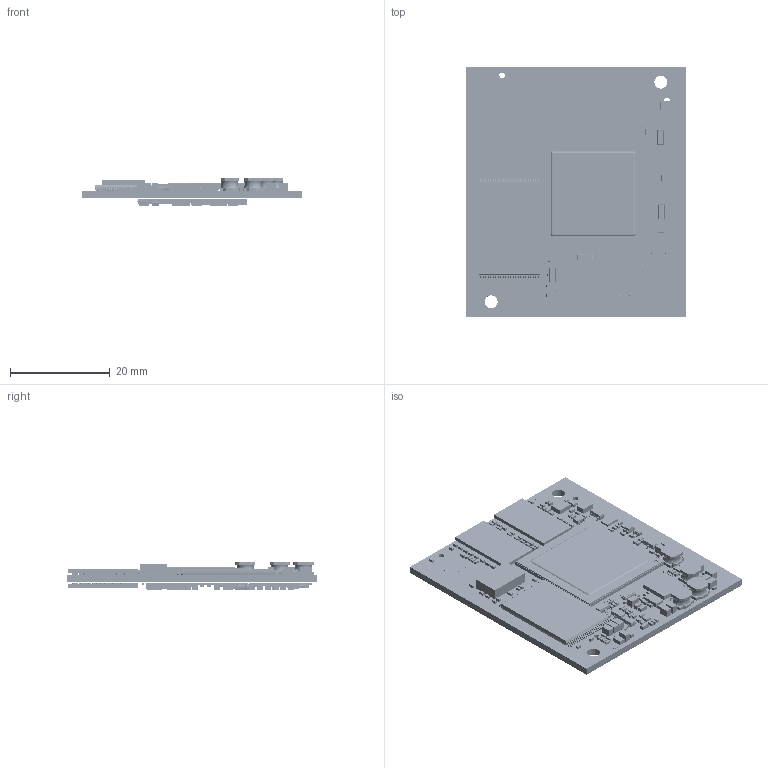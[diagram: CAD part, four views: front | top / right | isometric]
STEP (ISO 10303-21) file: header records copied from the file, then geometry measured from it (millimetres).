
FILE_DESCRIPTION(('STEP AP214'),'1');
FILE_NAME('Board1_BoardAndModels.step','2025-06-05T12:43:37',(' '),(' '),'Spatial InterOp 3D','XD3DPlugin XRACreate',' ');
FILE_SCHEMA(('automotive_design'));
Length unit declared in the file: millimetre
Products named in the file (190): Submodel-N:\GROUP\DEVELOP\HARDWARE\PCL-058 phyCORE-i.MX6 DSC\Design\1429.6b-DSC_ADIN1300-PHY\001\PCL-058\Board1_PCB\Layout\3D\Input_S\C0402C270F5GAC_0.xtd; C0402C270F5GAC_0; Submodel-CAP1363_part_simplified_0402-C3; DesignRootModel; Submodel-N:\GROUP\DEVELOP\HARDWARE\PCL-058 phyCORE-i.MX6 DSC\Design\1429.6b-DSC_ADIN1300-PHY\001\PCL-058\Board1_PCB\Layout\3D\Input_S\RCC-0402-1000F.xtd; RCC-0402-1000F; Submodel-RES802_part_simplified_0402-C3; Submodel-N:\GROUP\DEVELOP\HARDWARE\PCL-058 phyCORE-i.MX6 DSC\Design\1429.6b-DSC_ADIN1300-PHY\001\PCL-058\Board1_PCB\Layout\3D\Input_S\GMC21X7R474K25NT.xtd; GMC21X7R474K25NT; Submodel-CAP982_part_simplified_0805-height1_comma_5mm; Submodel-N:\GROUP\DEVELOP\HARDWARE\PCL-058 phyCORE-i.MX6 DSC\Design\1429.6b-DSC_ADIN1300-PHY\001\PCL-058\Board1_PCB\Layout\3D\Input_S\REMOVE_CONN2292.xtd; REMOVE_CONN2292; Submodel-CONN2292_part_simplified_Testpunkt-1mm; Submodel-RES5203_part_simplified_0402; Submodel-RES1982_part_simplified_0402-C3; Submodel-N:\GROUP\DEVELOP\HARDWARE\PCL-058 phyCORE-i.MX6 DSC\Design\1429.6b-DSC_ADIN1300-PHY\001\PCL-058\Board1_PCB\Layout\3D\Input_S\TSOP48_TYPE1_CPL_MRN.xtd; TSOP48_TYPE1_CPL_MRN; Submodel-FLASH73_part_simplified_TSOP48-50-C3; Submodel-N:\GROUP\DEVELOP\HARDWARE\PCL-058 phyCORE-i.MX6 DSC\Design\1429.6b-DSC_ADIN1300-PHY\001\PCL-058\Board1_PCB\Layout\3D\Input_S\JUMP32.xtd; JUMP32; Submodel-JUMP32_part_simplified_J1X3-0402-C3; Submodel-N:\GROUP\DEVELOP\HARDWARE\PCL-058 phyCORE-i.MX6 DSC\Design\1429.6b-DSC_ADIN1300-PHY\001\PCL-058\Board1_PCB\Layout\3D\Input_S\0402YC822JAZ4A.xtd; 0402YC822JAZ4A; Submodel-CAP722_part_simplified_0402-C3; Submodel-N:\GROUP\DEVELOP\HARDWARE\PCL-058 phyCORE-i.MX6 DSC\Design\1429.6b-DSC_ADIN1300-PHY\001\PCL-058\Board1_PCB\Layout\3D\Input_S\GMC10X7R104K100NT.xtd; GMC10X7R104K100NT; Submodel-CAP1102_part_simplified_0603-C3; Submodel-RES2212_part_simplified_0402-C3; Submodel-RES3023_part_simplified_0402-C3; Submodel-RES2882_part_simplified_0402-C3; Submodel-N:\GROUP\DEVELOP\HARDWARE\PCL-058 phyCORE-i.MX6 DSC\Design\1429.6b-DSC_ADIN1300-PHY\001\PCL-058\Board1_PCB\Layout\3D\Input_S\REMOVE_MECH603.xtd; REMOVE_MECH603; Submodel-MECH603_part_simplified_Fiducial-square_600_DSC; Submodel-RES2002_part_simplified_0402-C3; Submodel-N:\GROUP\DEVELOP\HARDWARE\PCL-058 phyCORE-i.MX6 DSC\Design\1429.6b-DSC_ADIN1300-PHY\001\PCL-058\Board1_PCB\Layout\3D\Input_S\EEPROM202.xtd; EEPROM202; Submodel-EEPROM202_part_simplified_DFN8-50-EP1_comma_2x1_comma_2; Submodel-RES3513_part_simplified_0402-C3; Submodel-CAP2703_part_simplified_0402; Submodel-N:\GROUP\DEVELOP\HARDWARE\PCL-058 phyCORE-i.MX6 DSC\Design\1429.6b-DSC_ADIN1300-PHY\001\PCL-058\Board1_PCB\Layout\3D\Input_S\REMOVE_MECH233.xtd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
Assembly tree (685 placements, depth 5):
  Board1_BoardAndModels
    DesignRootModel
      Submodel-CAP1363_part_simplified_0402-C3  x63
        Submodel-N:\GROUP\DEVELOP\HARDWARE\PCL-058 phyCORE-i.MX6 DSC\Design\1429.6b-DSC_ADIN1300-PHY\001\PCL-058\Board1_PCB\Layout\3D\Input_S\C0402C270F5GAC_0.xtd
          C0402C270F5GAC_0
      Submodel-RES802_part_simplified_0402-C3  x30
        Submodel-N:\GROUP\DEVELOP\HARDWARE\PCL-058 phyCORE-i.MX6 DSC\Design\1429.6b-DSC_ADIN1300-PHY\001\PCL-058\Board1_PCB\Layout\3D\Input_S\RCC-0402-1000F.xtd
          RCC-0402-1000F
      Submodel-CAP982_part_simplified_0805-height1_comma_5mm  x24
        Submodel-N:\GROUP\DEVELOP\HARDWARE\PCL-058 phyCORE-i.MX6 DSC\Design\1429.6b-DSC_ADIN1300-PHY\001\PCL-058\Board1_PCB\Layout\3D\Input_S\GMC21X7R474K25NT.xtd
          GMC21X7R474K25NT
      Submodel-CONN2292_part_simplified_Testpunkt-1mm  x11
        Submodel-N:\GROUP\DEVELOP\HARDWARE\PCL-058 phyCORE-i.MX6 DSC\Design\1429.6b-DSC_ADIN1300-PHY\001\PCL-058\Board1_PCB\Layout\3D\Input_S\REMOVE_CONN2292.xtd
          REMOVE_CONN2292
      Submodel-RES5203_part_simplified_0402
        Submodel-N:\GROUP\DEVELOP\HARDWARE\PCL-058 phyCORE-i.MX6 DSC\Design\1429.6b-DSC_ADIN1300-PHY\001\PCL-058\Board1_PCB\Layout\3D\Input_S\RCC-0402-1000F.xtd
          RCC-0402-1000F
      Submodel-RES1982_part_simplified_0402-C3  x71
        Submodel-N:\GROUP\DEVELOP\HARDWARE\PCL-058 phyCORE-i.MX6 DSC\Design\1429.6b-DSC_ADIN1300-PHY\001\PCL-058\Board1_PCB\Layout\3D\Input_S\RCC-0402-1000F.xtd
          RCC-0402-1000F
      Submodel-FLASH73_part_simplified_TSOP48-50-C3
        Submodel-N:\GROUP\DEVELOP\HARDWARE\PCL-058 phyCORE-i.MX6 DSC\Design\1429.6b-DSC_ADIN1300-PHY\001\PCL-058\Board1_PCB\Layout\3D\Input_S\TSOP48_TYPE1_CPL_MRN.xtd
          TSOP48_TYPE1_CPL_MRN
      Submodel-JUMP32_part_simplified_J1X3-0402-C3  x6
        Submodel-N:\GROUP\DEVELOP\HARDWARE\PCL-058 phyCORE-i.MX6 DSC\Design\1429.6b-DSC_ADIN1300-PHY\001\PCL-058\Board1_PCB\Layout\3D\Input_S\JUMP32.xtd
          JUMP32
      Submodel-CAP722_part_simplified_0402-C3  x164
        Submodel-N:\GROUP\DEVELOP\HARDWARE\PCL-058 phyCORE-i.MX6 DSC\Design\1429.6b-DSC_ADIN1300-PHY\001\PCL-058\Board1_PCB\Layout\3D\Input_S\0402YC822JAZ4A.xtd
          0402YC822JAZ4A
      Submodel-CAP1102_part_simplified_0603-C3  x18
        Submodel-N:\GROUP\DEVELOP\HARDWARE\PCL-058 phyCORE-i.MX6 DSC\Design\1429.6b-DSC_ADIN1300-PHY\001\PCL-058\Board1_PCB\Layout\3D\Input_S\GMC10X7R104K100NT.xtd
          GMC10X7R104K100NT
      Submodel-RES2212_part_simplified_0402-C3
        Submodel-N:\GROUP\DEVELOP\HARDWARE\PCL-058 phyCORE-i.MX6 DSC\Design\1429.6b-DSC_ADIN1300-PHY\001\PCL-058\Board1_PCB\Layout\3D\Input_S\RCC-0402-1000F.xtd
          RCC-0402-1000F
      Submodel-RES3023_part_simplified_0402-C3
        Submodel-N:\GROUP\DEVELOP\HARDWARE\PCL-058 phyCORE-i.MX6 DSC\Design\1429.6b-DSC_ADIN1300-PHY\001\PCL-058\Board1_PCB\Layout\3D\Input_S\RCC-0402-1000F.xtd
          RCC-0402-1000F
      Submodel-RES2882_part_simplified_0402-C3  x12
        Submodel-N:\GROUP\DEVELOP\HARDWARE\PCL-058 phyCORE-i.MX6 DSC\Design\1429.6b-DSC_ADIN1300-PHY\001\PCL-058\Board1_PCB\Layout\3D\Input_S\RCC-0402-1000F.xtd
          RCC-0402-1000F
      Submodel-MECH603_part_simplified_Fiducial-square_600_DSC  x2
        Submodel-N:\GROUP\DEVELOP\HARDWARE\PCL-058 phyCORE-i.MX6 DSC\Design\1429.6b-DSC_ADIN1300-PHY\001\PCL-058\Board1_PCB\Layout\3D\Input_S\REMOVE_MECH603.xtd
          REMOVE_MECH603
      Submodel-RES2002_part_simplified_0402-C3  x2
        Submodel-N:\GROUP\DEVELOP\HARDWARE\PCL-058 phyCORE-i.MX6 DSC\Design\1429.6b-DSC_ADIN1300-PHY\001\PCL-058\Board1_PCB\Layout\3D\Input_S\RCC-0402-1000F.xtd
          RCC-0402-1000F
      Submodel-EEPROM202_part_simplified_DFN8-50-EP1_comma_2x1_comma_2
        Submodel-N:\GROUP\DEVELOP\HARDWARE\PCL-058 phyCORE-i.MX6 DSC\Design\1429.6b-DSC_ADIN1300-PHY\001\PCL-058\Board1_PCB\Layout\3D\Input_S\EEPROM202.xtd
          EEPROM202
      Submodel-RES3513_part_simplified_0402-C3
        Submodel-N:\GROUP\DEVELOP\HARDWARE\PCL-058 phyCORE-i.MX6 DSC\Design\1429.6b-DSC_ADIN1300-PHY\001\PCL-058\Board1_PCB\Layout\3D\Input_S\RCC-0402-1000F.xtd
          RCC-0402-1000F
      Submodel-CAP2703_part_simplified_0402  x12
        Submodel-N:\GROUP\DEVELOP\HARDWARE\PCL-058 phyCORE-i.MX6 DSC\Design\1429.6b-DSC_ADIN1300-PHY\001\PCL-058\Board1_PCB\Layout\3D\Input_S\C0402C270F5GAC_0.xtd
          C0402C270F5GAC_0
      Submodel-MECH233_part_simplified_Fiducial-round  x2
        Submodel-N:\GROUP\DEVELOP\HARDWARE\PCL-058 phyCORE-i.MX6 DSC\Design\1429.6b-DSC_ADIN1300-PHY\001\PCL-058\Board1_PCB\Layout\3D\Input_S\REMOVE_MECH233.xtd
          REMOVE_MECH233
      Submodel-RES2912_part_simplified_0402-C3  x5
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Bounding box: 44 x 50 x 5.62 mm (x, y, z)
Volume: 5030.6 mm3; surface area: 12459.1 mm2
Topology: 794 solids, 902 shells, 8052 faces, 20897 edges, 14014 vertices
Faces by surface type: plane 5331, sphere 1401, cylinder 1231, torus 52, bspline 37
Full cylindrical faces by diameter (mm): 0.58 x1, 0.925 x1, 1.1 x3, 2.6 x2
Entity records: 165428 total; most frequent: DIRECTION 21084, CARTESIAN_POINT 20588, ORIENTED_EDGE 16796, EDGE_CURVE 8434, AXIS2_PLACEMENT_3D 8140, PRESENTATION_STYLE_ASSIGNMENT 7405, COLOUR_RGB 7405, STYLED_ITEM 6554
